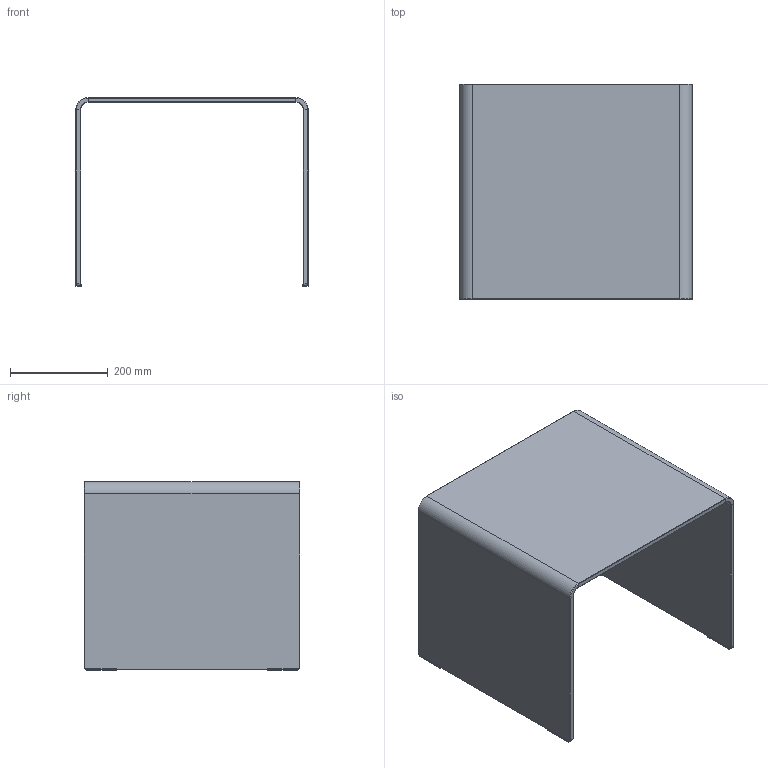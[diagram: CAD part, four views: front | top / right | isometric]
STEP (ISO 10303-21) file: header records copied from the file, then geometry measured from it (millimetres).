
FILE_DESCRIPTION((''),'2;1');
FILE_NAME('C:\AutodeskVault\AreaLavoro\Progetti\SoVeT Italia\2. Tavolini_Coffee tables\Trix\Web file\Trix Web\P4131.stp','2012-06-14T16:49:33',('Gianluca'),('So.Ve.T. s.r.l.'),'Autodesk Inventor 2013','Autodesk Inventor 2013','IL PROGETTO E'' DI ESCLUSIVA PROPRIETA'' DELLA SO.VE.T. srl. E'' VIETATA OGNI RIPRODUZIONE TOTALE O PARZIALE E QUALSIASI UTILIZZO NON AUTORIZZATO. ');
FILE_SCHEMA(('AUTOMOTIVE_DESIGN { 1 0 10303 214 1 1 1 1 }'));
Length unit declared in the file: millimetre
Products named in the file (1): P4131 Contorno semplificato
Bounding box: 477.6 x 440 x 386.2 mm (x, y, z)
Volume: 5316097 mm3; surface area: 1096425.4 mm2
Topology: 1 solids, 1 shells, 134 faces, 344 edges, 204 vertices
Faces by surface type: plane 78, cylinder 40, cone 16
Entity records: 4173 total; most frequent: DIRECTION 710, ORIENTED_EDGE 688, CARTESIAN_POINT 683, EDGE_CURVE 344, VECTOR 248, LINE 248, AXIS2_PLACEMENT_3D 231, VERTEX_POINT 204
